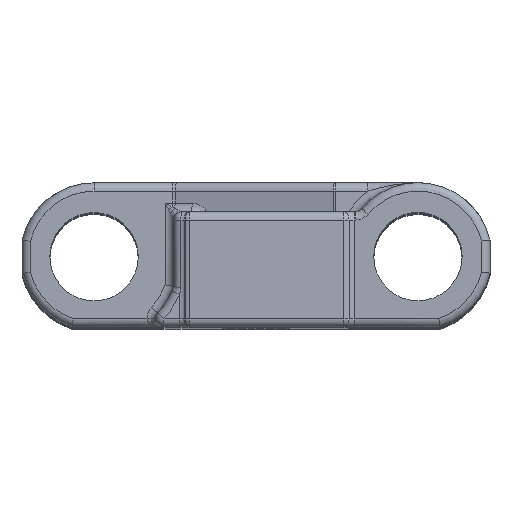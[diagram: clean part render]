
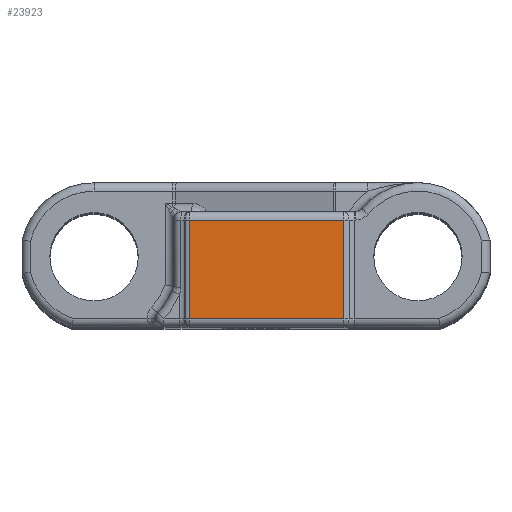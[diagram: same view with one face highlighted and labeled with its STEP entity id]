
A CAD part, top view. The second image highlights one B-rep face of the part: STEP entity #23923.
In plain terms, the highlighted planar face has unit normal (0, 0, 1).
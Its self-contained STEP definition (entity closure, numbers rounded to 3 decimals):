
#7698=DIRECTION('',(1.,0.,0.));
#7699=VECTOR('',#7698,9.067);
#7700=CARTESIAN_POINT('',(-3.892,-3.65,38.));
#7701=LINE('',#7700,#7699);
#7702=DIRECTION('',(0.,-1.,0.));
#7703=VECTOR('',#7702,5.8);
#7704=CARTESIAN_POINT('',(-3.892,2.15,38.));
#7705=LINE('',#7704,#7703);
#7706=DIRECTION('',(1.,0.,0.));
#7707=VECTOR('',#7706,9.067);
#7708=CARTESIAN_POINT('',(-3.892,2.15,38.));
#7709=LINE('',#7708,#7707);
#7710=DIRECTION('',(0.,-1.,0.));
#7711=VECTOR('',#7710,5.8);
#7712=CARTESIAN_POINT('',(5.175,2.15,38.));
#7713=LINE('',#7712,#7711);
#12551=CARTESIAN_POINT('',(5.175,-3.65,38.));
#12552=VERTEX_POINT('',#12551);
#12553=CARTESIAN_POINT('',(-3.892,-3.65,38.));
#12554=VERTEX_POINT('',#12553);
#12578=CARTESIAN_POINT('',(5.175,2.15,38.));
#12579=VERTEX_POINT('',#12578);
#12584=CARTESIAN_POINT('',(-3.892,2.15,38.));
#12585=VERTEX_POINT('',#12584);
#23910=CARTESIAN_POINT('',(-4.043,-4.15,38.));
#23911=DIRECTION('',(0.,0.,1.));
#23912=DIRECTION('',(1.,0.,0.));
#23913=AXIS2_PLACEMENT_3D('',#23910,#23911,#23912);
#23914=PLANE('',#23913);
#23915=ORIENTED_EDGE('',*,*,#23901,.F.);
#23916=ORIENTED_EDGE('',*,*,#23878,.F.);
#23918=ORIENTED_EDGE('',*,*,#23917,.T.);
#23920=ORIENTED_EDGE('',*,*,#23919,.T.);
#23921=EDGE_LOOP('',(#23915,#23916,#23918,#23920));
#23922=FACE_OUTER_BOUND('',#23921,.F.);
#23923=ADVANCED_FACE('',(#23922),#23914,.T.);
#23878=EDGE_CURVE('',#12585,#12554,#7705,.T.);
#23901=EDGE_CURVE('',#12554,#12552,#7701,.T.);
#23917=EDGE_CURVE('',#12585,#12579,#7709,.T.);
#23919=EDGE_CURVE('',#12579,#12552,#7713,.T.);
